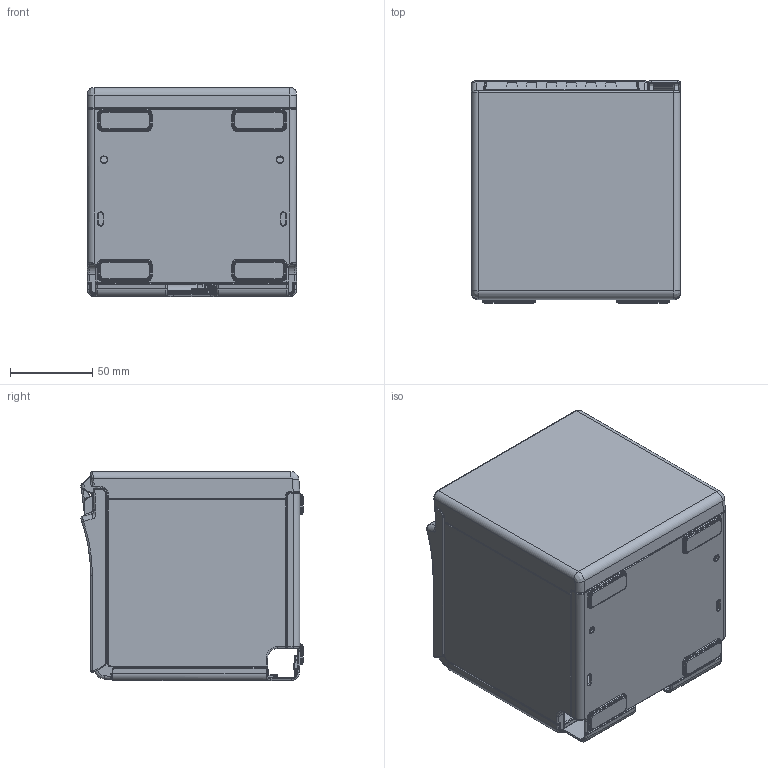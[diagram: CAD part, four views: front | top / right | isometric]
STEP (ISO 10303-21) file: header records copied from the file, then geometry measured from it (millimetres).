
FILE_DESCRIPTION((''),'2;1');
FILE_NAME('TM-M30II_TOP_CLOSE_SW','2025-01-23T11:38:18',('0092109'),(''),'CREO PARAMETRIC BY PTC INC, 2022281','CREO PARAMETRIC BY PTC INC, 2022281','');
FILE_SCHEMA(('AUTOMOTIVE_DESIGN { 1 0 10303 214 1 1 1 1 }'));
Products named in the file (1): TM-M30II_TOP_CLOSE_SW
Bounding box: 127 x 135 x 127 mm (x, y, z)
Surface area: 224074.3 mm2 (no closed solid volume)
Topology: 0 solids, 15 shells, 3302 faces, 9312 edges, 5945 vertices
Faces by surface type: plane 1400, cylinder 1270, torus 335, bspline 229, cone 49, sphere 18, extrusion 1
Entity records: 130374 total; most frequent: CARTESIAN_POINT 46257, ORIENTED_EDGE 17532, DIRECTION 17238, EDGE_CURVE 9312, VERTEX_POINT 5945, AXIS2_PLACEMENT_3D 5789, VECTOR 5660, LINE 5659
